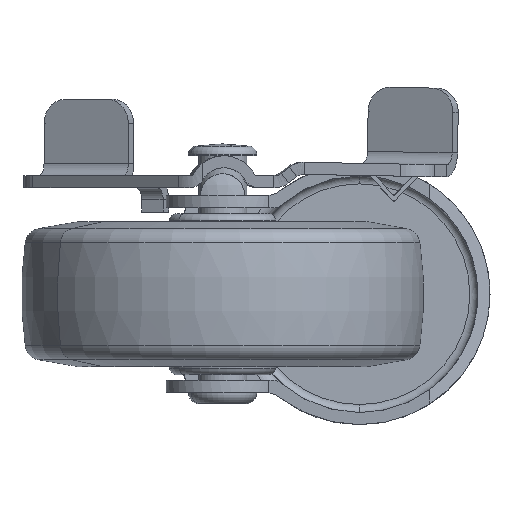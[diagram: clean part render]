
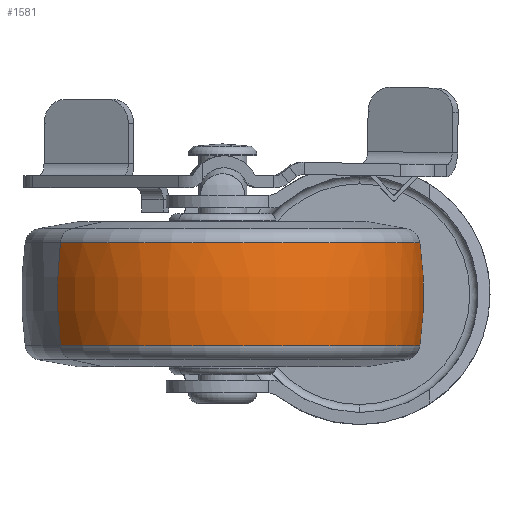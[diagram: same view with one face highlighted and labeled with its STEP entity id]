
A CAD part, front view. The second image highlights one B-rep face of the part: STEP entity #1581.
In plain terms, the highlighted toroidal (fillet/blend) face has major radius 25 mm and minor radius 50 mm.
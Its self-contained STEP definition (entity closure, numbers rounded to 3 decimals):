
#45 = EDGE_CURVE ( 'NONE', #6279, #3367, #3229, .T. ) ;
#185 = CARTESIAN_POINT ( 'NONE',  ( 24.587, 0., -6.414 ) ) ;
#440 = ORIENTED_EDGE ( 'NONE', *, *, #45, .F. ) ;
#1124 = CARTESIAN_POINT ( 'NONE',  ( 0., 0., -6.414 ) ) ;
#1581 = ADVANCED_FACE ( 'NONE', ( #4761 ), #6019, .T. ) ;
#1636 = CARTESIAN_POINT ( 'NONE',  ( 0., 0., 6.414 ) ) ;
#2021 = AXIS2_PLACEMENT_3D ( 'NONE', #7559, #7526, #2650 ) ;
#2168 = DIRECTION ( 'NONE',  ( 0., 0., -1. ) ) ;
#2212 = CIRCLE ( 'NONE', #7850, 50. ) ;
#2372 = DIRECTION ( 'NONE',  ( 1., 0., 0. ) ) ;
#2445 = VERTEX_POINT ( 'NONE', #185 ) ;
#2646 = VERTEX_POINT ( 'NONE', #6556 ) ;
#2650 = DIRECTION ( 'NONE',  ( 1., 0., 0. ) ) ;
#2893 = DIRECTION ( 'NONE',  ( 0., -1., 0. ) ) ;
#3229 = CIRCLE ( 'NONE', #5571, 24.587 ) ;
#3367 = VERTEX_POINT ( 'NONE', #4266 ) ;
#3385 = ORIENTED_EDGE ( 'NONE', *, *, #7267, .F. ) ;
#4266 = CARTESIAN_POINT ( 'NONE',  ( 24.587, 0., 6.414 ) ) ;
#4275 = ORIENTED_EDGE ( 'NONE', *, *, #6809, .T. ) ;
#4331 = DIRECTION ( 'NONE',  ( -1., 0., 0. ) ) ;
#4686 = CARTESIAN_POINT ( 'NONE',  ( -25., 0., 0. ) ) ;
#4761 = FACE_OUTER_BOUND ( 'NONE', #7241, .T. ) ;
#5230 = CIRCLE ( 'NONE', #6065, 50. ) ;
#5426 = DIRECTION ( 'NONE',  ( 0., 0., 1. ) ) ;
#5571 = AXIS2_PLACEMENT_3D ( 'NONE', #1636, #5955, #6615 ) ;
#5917 = CARTESIAN_POINT ( 'NONE',  ( -24.587, 0., 6.414 ) ) ;
#5953 = AXIS2_PLACEMENT_3D ( 'NONE', #1124, #5426, #2372 ) ;
#5955 = DIRECTION ( 'NONE',  ( 0., 0., 1. ) ) ;
#6019 = TOROIDAL_SURFACE ( 'NONE', #2021, -25., 50. ) ;
#6065 = AXIS2_PLACEMENT_3D ( 'NONE', #4686, #2893, #2168 ) ;
#6279 = VERTEX_POINT ( 'NONE', #5917 ) ;
#6329 = EDGE_CURVE ( 'NONE', #2646, #2445, #6511, .T. ) ;
#6511 = CIRCLE ( 'NONE', #5953, 24.587 ) ;
#6556 = CARTESIAN_POINT ( 'NONE',  ( -24.587, 0., -6.414 ) ) ;
#6615 = DIRECTION ( 'NONE',  ( 1., 0., 0. ) ) ;
#6621 = ORIENTED_EDGE ( 'NONE', *, *, #6329, .T. ) ;
#6809 = EDGE_CURVE ( 'NONE', #2445, #3367, #5230, .T. ) ;
#7241 = EDGE_LOOP ( 'NONE', ( #3385, #6621, #4275, #440 ) ) ;
#7267 = EDGE_CURVE ( 'NONE', #2646, #6279, #2212, .T. ) ;
#7362 = DIRECTION ( 'NONE',  ( 0., 1., 0. ) ) ;
#7467 = CARTESIAN_POINT ( 'NONE',  ( 25., 0., 0. ) ) ;
#7526 = DIRECTION ( 'NONE',  ( 0., 0., 1. ) ) ;
#7559 = CARTESIAN_POINT ( 'NONE',  ( 0., 0., 0. ) ) ;
#7850 = AXIS2_PLACEMENT_3D ( 'NONE', #7467, #7362, #4331 ) ;
